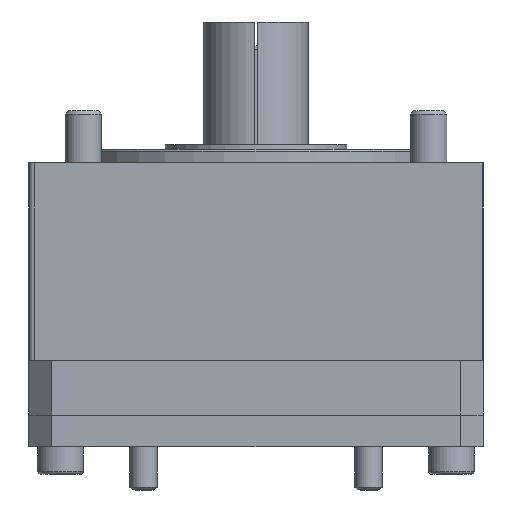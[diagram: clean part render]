
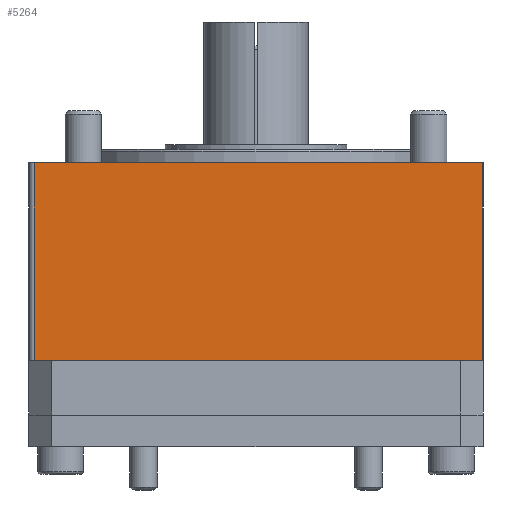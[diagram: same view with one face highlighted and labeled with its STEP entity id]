
A CAD part, front view. The second image highlights one B-rep face of the part: STEP entity #5264.
In plain terms, the highlighted planar face has unit normal (0, -1, 0).
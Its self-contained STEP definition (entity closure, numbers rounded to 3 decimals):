
#187=LINE('',#7970,#570);
#188=LINE('',#7974,#571);
#189=LINE('',#7976,#572);
#190=LINE('',#7977,#573);
#570=VECTOR('',#6310,43.5);
#571=VECTOR('',#6315,98.6);
#572=VECTOR('',#6316,43.5);
#573=VECTOR('',#6317,98.6);
#947=PLANE('',#5616);
#1311=FACE_OUTER_BOUND('',#1642,.T.);
#1642=EDGE_LOOP('',(#3694,#3695,#3696,#3697));
#2405=VERTEX_POINT('',#7967);
#2406=VERTEX_POINT('',#7969);
#2407=VERTEX_POINT('',#7973);
#2408=VERTEX_POINT('',#7975);
#2933=EDGE_CURVE('',#2406,#2405,#187,.T.);
#2935=EDGE_CURVE('',#2405,#2407,#188,.T.);
#2936=EDGE_CURVE('',#2408,#2407,#189,.T.);
#2937=EDGE_CURVE('',#2408,#2406,#190,.T.);
#3694=ORIENTED_EDGE('',*,*,#2935,.T.);
#3695=ORIENTED_EDGE('',*,*,#2936,.F.);
#3696=ORIENTED_EDGE('',*,*,#2937,.T.);
#3697=ORIENTED_EDGE('',*,*,#2933,.T.);
#5264=ADVANCED_FACE('',(#1311),#947,.T.);
#5616=AXIS2_PLACEMENT_3D('',#7972,#6313,#6314);
#6310=DIRECTION('',(0.,0.,1.));
#6313=DIRECTION('center_axis',(0.,-1.,0.));
#6314=DIRECTION('ref_axis',(0.,0.,-1.));
#6315=DIRECTION('',(-1.,0.,0.));
#6316=DIRECTION('',(0.,0.,1.));
#6317=DIRECTION('',(1.,0.,0.));
#7967=CARTESIAN_POINT('',(49.8,-44.5,43.5));
#7969=CARTESIAN_POINT('',(49.8,-44.5,0.));
#7970=CARTESIAN_POINT('',(49.8,-44.5,0.));
#7972=CARTESIAN_POINT('Origin',(49.8,-44.5,0.));
#7973=CARTESIAN_POINT('',(-48.8,-44.5,43.5));
#7974=CARTESIAN_POINT('',(-48.8,-44.5,43.5));
#7975=CARTESIAN_POINT('',(-48.8,-44.5,0.));
#7976=CARTESIAN_POINT('',(-48.8,-44.5,0.));
#7977=CARTESIAN_POINT('',(-48.8,-44.5,0.));
